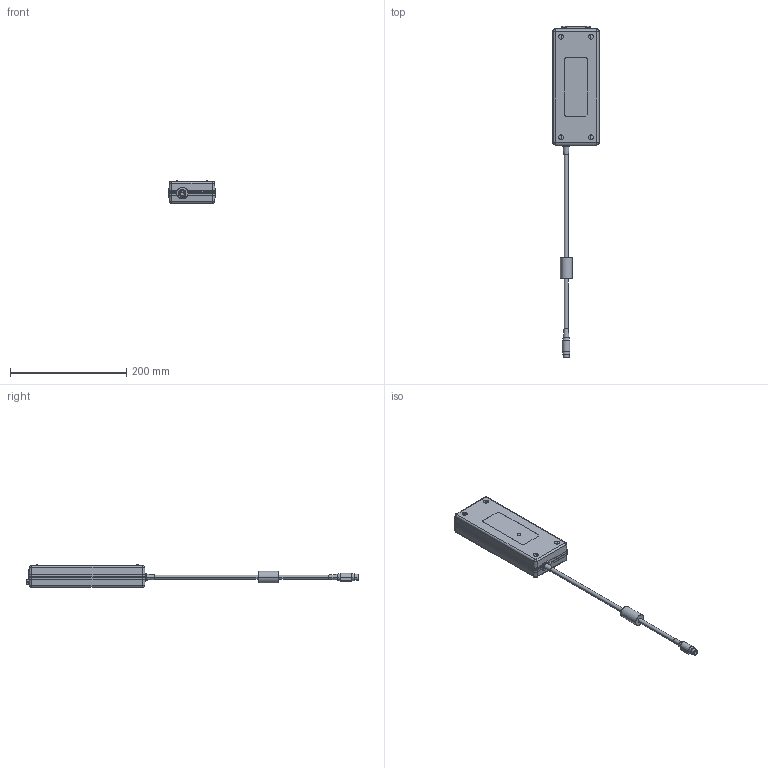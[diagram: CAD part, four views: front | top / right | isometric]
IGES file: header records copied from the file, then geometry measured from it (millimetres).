
Start section: SolidWorks IGES file using analytic representation for surfaces
Global section: file name: C:\Users\Leonard Torio\Desktop\AHM 3D STEP FILES\IGES\AHM150PSXX IGES.IGS; native system: SolidWorks 2011; preprocessor: SolidWorks 2011; author: Leonard Torio; date: 120116.094512; units: millimetre
Bounding box: 79.97 x 571.07 x 38.15 mm (x, y, z)
Surface area: 135303.5 mm2 (no closed solid volume)
Topology: 0 solids, 0 shells, 2780 faces, 20265 edges, 20225 vertices
Faces by surface type: bspline 2269, revolution 511
